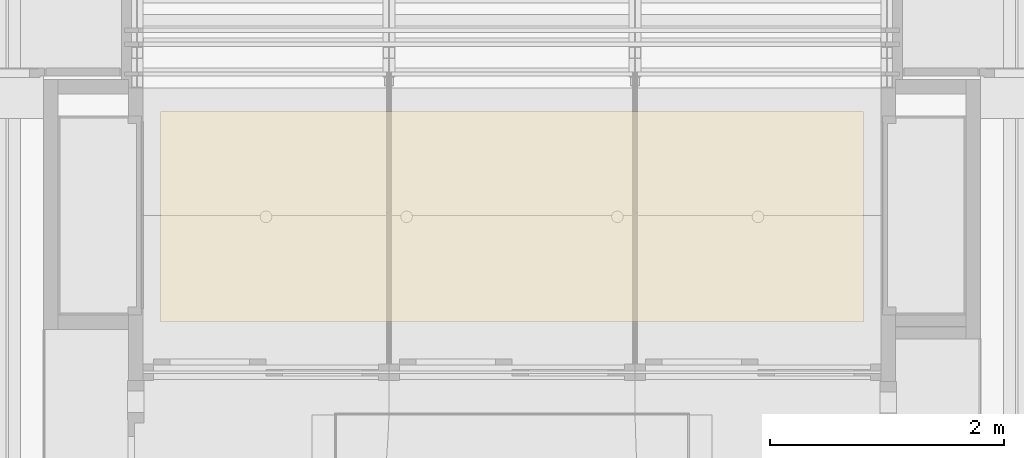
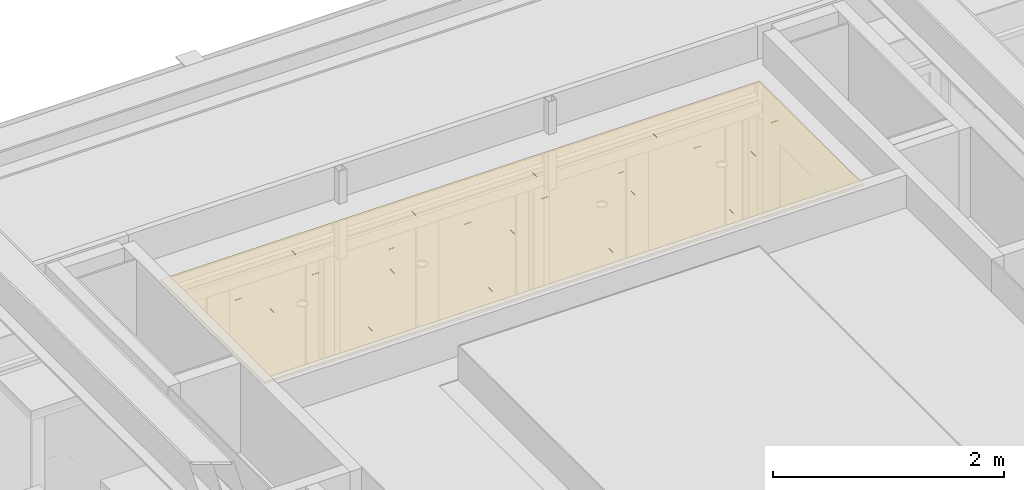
# One storey, part 176 of 347: 1 covering.
"""IFC2X3 building model written with IfcOpenShell, lengths in millimetres."""

import ifcopenshell
import ifcopenshell.guid

model = None  # the IFC model being written
_history = None  # IfcOwnerHistory: only IFC2X3 demands one
_inside = {}  # id of a spatial element -> (the spatial element, [elements in it])
_under = {}  # id of a project, library or spatial element -> (it, [spatial elements below it])
_declared = {}  # id of a project -> (the project, [libraries it declares])
_typed = {}  # id of a type object -> (the type object, [elements of that type])
_made_of = {}  # id of a material, layer set ... -> (it, [elements and type objects made of it])


def new_model(schema):
    """Start an empty IFC model of exactly this schema.

    Asked for "IFC4X3", IfcOpenShell would pick the latest addendum, in which some entities
    have other attributes; the version numbers below select the first issue.
    IFC2X3 requires an IfcOwnerHistory on every rooted entity: one is made here for all.
    """
    global model, _history
    if schema == "IFC4X3":
        model = ifcopenshell.file(schema_version=(4, 3, 0, 0))
    else:
        model = ifcopenshell.file(schema=schema)
    _inside.clear()
    _under.clear()
    _declared.clear()
    _typed.clear()
    _made_of.clear()
    _history = None
    if model.schema == "IFC2X3":
        org = make("IfcOrganization", Name="unknown")
        user = make(
            "IfcPersonAndOrganization",
            ThePerson=make("IfcPerson", FamilyName="unknown"),
            TheOrganization=org,
        )
        app = make(
            "IfcApplication",
            ApplicationDeveloper=org,
            Version="unknown",
            ApplicationFullName="unknown",
            ApplicationIdentifier="unknown",
        )
        _history = make(
            "IfcOwnerHistory",
            OwningUser=user,
            OwningApplication=app,
            ChangeAction="ADDED",
            CreationDate=0,
        )
    return model


def make(cls, **values):
    """One entity of the class cls with the attributes given. An attribute that is None is left unset."""
    return model.create_entity(
        cls, **{name: value for name, value in values.items() if value is not None}
    )


def entity(cls, *values):
    """Any entity or typed value of the class cls, its attributes in the order of the schema. None: left unset."""
    e = model.create_entity(cls)
    for i, value in enumerate(values):
        if value is not None:
            e[i] = value
    return e


def rooted(cls, **values):
    """An entity with a GlobalId (a new one), such as an element, a storey or a relation."""
    return make(cls, GlobalId=ifcopenshell.guid.new(), OwnerHistory=_history, **values)


def si_unit(unit_type, name, prefix=None):
    """IfcSIUnit, for example si_unit("LENGTHUNIT", "METRE", prefix="MILLI")."""
    return make("IfcSIUnit", UnitType=unit_type, Prefix=prefix, Name=name)


def converted_unit(unit_type, name, factor, base, dimensions=None, offset=None):
    """IfcConversionBasedUnit, such as the inch: factor (a typed value) times the base unit."""
    return make(
        "IfcConversionBasedUnit"
        if offset is None
        else "IfcConversionBasedUnitWithOffset",
        ConversionOffset=offset,
        Dimensions=None
        if dimensions is None
        else entity("IfcDimensionalExponents", *dimensions),
        UnitType=unit_type,
        Name=name,
        ConversionFactor=make(
            "IfcMeasureWithUnit", ValueComponent=factor, UnitComponent=base
        ),
    )


def derived_unit(unit_type, elements):
    """IfcDerivedUnit: a product of units, each with its exponent."""
    return make(
        "IfcDerivedUnit",
        Elements=[
            make("IfcDerivedUnitElement", Unit=unit, Exponent=power)
            for unit, power in elements
        ],
        UnitType=unit_type,
    )


def money_unit(currency):
    """IfcMonetaryUnit."""
    return make("IfcMonetaryUnit", Currency=currency)


def assignment(units):
    """IfcUnitAssignment: the units of a project."""
    return None if units is None else make("IfcUnitAssignment", Units=units)


def point(xyz):
    """IfcCartesianPoint."""
    return None if xyz is None else make("IfcCartesianPoint", Coordinates=xyz)


def direction(xyz):
    """IfcDirection."""
    return None if xyz is None else make("IfcDirection", DirectionRatios=xyz)


def frame(location, z_axis=None, x_axis=None):
    """IfcAxis2Placement3D, a coordinate frame: its origin and axes. An axis left out is left unset."""
    return make(
        "IfcAxis2Placement3D",
        Location=point(location),
        Axis=direction(z_axis),
        RefDirection=direction(x_axis),
    )


def origin_with_axes():
    """The frame at (0, 0, 0) with the z axis (0, 0, 1) and the x axis (1, 0, 0) written out."""
    return frame((0.0, 0.0, 0.0), z_axis=(0.0, 0.0, 1.0), x_axis=(1.0, 0.0, 0.0))


def place(relative_to, where):
    """IfcLocalPlacement: puts the frame where relative to a parent placement (None: the world)."""
    return make(
        "IfcLocalPlacement", PlacementRelTo=relative_to, RelativePlacement=where
    )


def context(
    kind, dimensions, precision=None, world=None, true_north=None, identifier=None
):
    """IfcGeometricRepresentationContext, for example the 3D "Model" context."""
    return make(
        "IfcGeometricRepresentationContext",
        ContextIdentifier=identifier,
        ContextType=kind,
        CoordinateSpaceDimension=dimensions,
        Precision=precision,
        WorldCoordinateSystem=world,
        TrueNorth=true_north,
    )


def subcontext(parent, identifier, kind, view, scale=None):
    """IfcGeometricRepresentationSubContext, for example "Body" below "Model"."""
    return make(
        "IfcGeometricRepresentationSubContext",
        ContextIdentifier=identifier,
        ContextType=kind,
        ParentContext=parent,
        TargetScale=scale,
        TargetView=view,
    )


def project(units=None, contexts=None):
    """IfcProject with its units and contexts."""
    return rooted(
        "IfcProject",
        Name="project",
        RepresentationContexts=contexts,
        UnitsInContext=assignment(units),
    )


def spatial(cls, under=None, at=None, **own):
    """A site, building, storey or space (cls), placed at a placement, below another one or the project."""
    s = rooted(cls, ObjectPlacement=at, **own)
    if under is not None:
        _under.setdefault(under.id(), (under, []))[1].append(s)
    return s


def faces_of(points, faces, orient=None, outer=None):
    """IfcFace entities. A face is a list of loops; a loop is a list of indices into points, from 0.

    orient and outer hold one flag for each loop. By default every Orientation is true, the
    first loop of a face is its IfcFaceOuterBound and the others are IfcFaceBound.
    """
    made = []
    for i, loops in enumerate(faces):
        bounds = []
        for j, loop in enumerate(loops):
            is_outer = j == 0 if outer is None else outer[i][j]
            bounds.append(
                make(
                    "IfcFaceOuterBound" if is_outer else "IfcFaceBound",
                    Bound=make("IfcPolyLoop", Polygon=[points[k] for k in loop]),
                    Orientation=True if orient is None else orient[i][j],
                )
            )
        made.append(make("IfcFace", Bounds=bounds))
    return made


def faceted_brep(points, faces, orient=None, outer=None, voids=None):
    """IfcFacetedBrep: a solid bounded by flat faces; with voids (closed shells), ...WithVoids."""
    shared = [point(p) for p in points]
    hull = make("IfcClosedShell", CfsFaces=faces_of(shared, faces, orient, outer))
    if voids is None:
        return make("IfcFacetedBrep", Outer=hull)
    return make(
        "IfcFacetedBrepWithVoids",
        Outer=hull,
        Voids=[
            make(cls, CfsFaces=faces_of(shared, fs, o, b)) for cls, fs, o, b in voids
        ],
    )


def shape(context_of_items, identifier, shape_type, items):
    """IfcShapeRepresentation: the items that make up one representation, for example the "Body"."""
    return make(
        "IfcShapeRepresentation",
        ContextOfItems=context_of_items,
        RepresentationIdentifier=identifier,
        RepresentationType=shape_type,
        Items=items,
    )


def made_of(thing, what):
    """Note that an element or type object is made of a material, layer set ...; save() writes the relation."""
    if what is not None:
        _made_of.setdefault(what.id(), (what, []))[1].append(thing)
    return thing


def type_object(cls, material=None, **own):
    """A type object (cls), such as IfcWallType, which elements share."""
    return made_of(rooted(cls, **own), material)


def element(
    cls,
    number,
    at=None,
    inside=None,
    cuts=None,
    type_object=None,
    material=None,
    context=None,
    identifier="Body",
    shape_type=None,
    held_by="IfcProductDefinitionShape",
    body=None,
    shapes=None,
    **own,
):
    """One element of the class cls, such as IfcWall. Its Tag is "e" and its number.

    at: its placement. inside: the storey or other place that contains it. cuts: it is an
    opening in that element (IfcRelVoidsElement). A single representation is given by context,
    identifier, shape_type and body (its items); several are given by shapes. held_by: the class
    of the entity that holds the representations. save() writes the other relations.
    """
    e = rooted(cls, Tag="e%d" % number, ObjectPlacement=at, **own)
    if body is not None:
        shapes = [shape(context, identifier, shape_type, body)]
    if shapes is not None:
        e.Representation = make(held_by, Representations=shapes)
    if inside is not None:
        _inside.setdefault(inside.id(), (inside, []))[1].append(e)
    if cuts is not None:
        rooted(
            "IfcRelVoidsElement", RelatingBuildingElement=cuts, RelatedOpeningElement=e
        )
    if type_object is not None:
        _typed.setdefault(type_object.id(), (type_object, []))[1].append(e)
    return made_of(e, material)


def aggregate(whole, parts):
    """IfcRelAggregates: a whole, such as a stair, and the parts it consists of."""
    return rooted("IfcRelAggregates", RelatingObject=whole, RelatedObjects=parts)


def save(model, path):
    """Write the relations noted so far, then the file.

    IfcRelAggregates (storeys below a building ...), IfcRelContainedInSpatialStructure (elements
    in a storey), IfcRelDefinesByType, IfcRelAssociatesMaterial and IfcRelDeclares: one each for
    every whole, place, type object, material and project.
    """
    for whole, parts in _under.values():
        aggregate(whole, parts)
    for where, things in _inside.values():
        rooted(
            "IfcRelContainedInSpatialStructure",
            RelatedElements=things,
            RelatingStructure=where,
        )
    for kind, things in _typed.values():
        rooted("IfcRelDefinesByType", RelatedObjects=things, RelatingType=kind)
    for what, things in _made_of.values():
        rooted("IfcRelAssociatesMaterial", RelatedObjects=things, RelatingMaterial=what)
    for by, libraries in _declared.values():
        rooted("IfcRelDeclares", RelatingContext=by, RelatedDefinitions=libraries)
    model.write(path)


model = new_model("IFC2X3")

# Units and contexts
model_context = context("Model", 3, precision=0.01, world=origin_with_axes(), true_north=direction((0.0, 1.0)))
plan_context = context("Plan", 3, precision=0.01, world=origin_with_axes(), true_north=direction((0.0, 1.0)))
body_context = subcontext(model_context, "Body", "Model", "MODEL_VIEW")
ifc_project = project(units=[si_unit("LENGTHUNIT", "METRE", prefix="MILLI"), si_unit("AREAUNIT", "SQUARE_METRE"), si_unit("VOLUMEUNIT", "CUBIC_METRE"), converted_unit("PLANEANGLEUNIT", "DEGREE", entity("IfcPlaneAngleMeasure", 0.0174532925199), si_unit("PLANEANGLEUNIT", "RADIAN"), dimensions=[0, 0, 0, 0, 0, 0, 0]), money_unit("EUR"), converted_unit("TIMEUNIT", "Year", entity("IfcTimeMeasure", 31556926.0), si_unit("TIMEUNIT", "SECOND"), dimensions=[0, 0, 1, 0, 0, 0, 0]), si_unit("MASSUNIT", "GRAM", prefix="KILO"), si_unit("THERMODYNAMICTEMPERATUREUNIT", "DEGREE_CELSIUS"), si_unit("LUMINOUSINTENSITYUNIT", "LUMEN"), si_unit("ENERGYUNIT", "JOULE", prefix="MEGA"), derived_unit("THERMALCONDUCTANCEUNIT", [(si_unit("POWERUNIT", "WATT"), 1), (si_unit("LENGTHUNIT", "METRE"), -1), (si_unit("THERMODYNAMICTEMPERATUREUNIT", "KELVIN"), -1)]), derived_unit("SPECIFICHEATCAPACITYUNIT", [(si_unit("ENERGYUNIT", "JOULE"), 1), (si_unit("MASSUNIT", "GRAM", prefix="KILO"), -1), (si_unit("THERMODYNAMICTEMPERATUREUNIT", "KELVIN"), -1)]), derived_unit("MASSDENSITYUNIT", [(si_unit("MASSUNIT", "GRAM", prefix="KILO"), 1), (si_unit("VOLUMEUNIT", "CUBIC_METRE"), -1)])], contexts=[model_context, plan_context])

# Site, building, storey
site_placement = place(None, origin_with_axes())
site = spatial("IfcSite", under=ifc_project, at=site_placement, Name="Site", CompositionType="ELEMENT")
building_placement = place(site_placement, origin_with_axes())
building = spatial("IfcBuilding", under=site, at=building_placement, Name="Naam gebouw", CompositionType="ELEMENT")
storey_placement = place(building_placement, origin_with_axes())
storey = spatial("IfcBuildingStorey", under=building, at=storey_placement, Name="begane grond", CompositionType="ELEMENT", Elevation=0.0)

# Covering
covering_type = type_object("IfcCoveringType", Name="Ceiling Editor INT_v2.01", PredefinedType="CEILING")
covering_placement = place(storey_placement, frame((37075.0, 43053.0, 3200.0), z_axis=(0.0, 0.0, 1.0), x_axis=(1.0, 0.0, 0.0)))
element("IfcCovering", 1, at=covering_placement, inside=storey, type_object=covering_type, Name="45 Plafondafwerkingen_77 garderobe", PredefinedType="CEILING", context=body_context, shape_type="Brep", body=[
    faceted_brep([(599.9, 0.1, 20.0), (599.9, 0.1, 0.0), (599.9, 1199.9, 0.0), (599.9, 1199.9, 20.0), (0.0999999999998, 0.1, 20.0), (0.0999999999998, 0.1, 0.0), (0.0999999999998, 1199.9, 0.0), (0.0999999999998, 1199.9, 20.0)], [[[0, 1, 2, 3]], [[4, 5, 1, 0]], [[2, 1, 5, 6]], [[3, 2, 6, 7]], [[4, 0, 3, 7]], [[7, 6, 5, 4]]]),
    faceted_brep([(599.9, 1800.0, 0.0), (599.9, 1800.0, 20.0), (599.9, 1200.1, 20.0), (599.9, 1200.1, 0.0), (0.0999999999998, 1800.0, 0.0), (0.0999999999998, 1800.0, 20.0), (0.0999999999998, 1200.1, 20.0), (0.0999999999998, 1200.1, 0.0)], [[[0, 1, 2, 3]], [[1, 0, 4, 5]], [[1, 5, 6, 2]], [[6, 7, 3, 2]], [[4, 0, 3, 7]], [[5, 4, 7, 6]]]),
    faceted_brep([(1199.9, 0.1, 20.0), (1199.9, 0.1, 0.0), (1199.9, 1199.9, 0.0), (1199.9, 1199.9, 20.0), (600.1, 0.1, 20.0), (600.1, 0.1, 0.0), (600.1, 1199.9, 0.0), (600.1, 1199.9, 20.0)], [[[0, 1, 2, 3]], [[4, 5, 1, 0]], [[2, 1, 5, 6]], [[3, 2, 6, 7]], [[4, 0, 3, 7]], [[7, 6, 5, 4]]]),
    faceted_brep([(1199.9, 1800.0, 0.0), (1199.9, 1800.0, 20.0), (1199.9, 1200.1, 20.0), (1199.9, 1200.1, 0.0), (600.1, 1800.0, 0.0), (600.1, 1800.0, 20.0), (600.1, 1200.1, 20.0), (600.1, 1200.1, 0.0)], [[[0, 1, 2, 3]], [[1, 0, 4, 5]], [[1, 5, 6, 2]], [[6, 7, 3, 2]], [[4, 0, 3, 7]], [[5, 4, 7, 6]]]),
    faceted_brep([(1799.9, 0.1, 20.0), (1799.9, 0.1, 0.0), (1799.9, 1199.9, 0.0), (1799.9, 1199.9, 20.0), (1200.1, 0.1, 20.0), (1200.1, 0.1, 0.0), (1200.1, 1199.9, 0.0), (1200.1, 1199.9, 20.0)], [[[0, 1, 2, 3]], [[4, 5, 1, 0]], [[2, 1, 5, 6]], [[3, 2, 6, 7]], [[4, 0, 3, 7]], [[7, 6, 5, 4]]]),
    faceted_brep([(1799.9, 1800.0, 0.0), (1799.9, 1800.0, 20.0), (1799.9, 1200.1, 20.0), (1799.9, 1200.1, 0.0), (1500.0, 1800.0, 0.0), (1500.0, 1800.0, 20.0), (1200.1, 1800.0, 20.0), (1200.1, 1200.1, 20.0), (1200.1, 1200.1, 0.0), (1200.1, 1800.0, 0.0)], [[[0, 1, 2, 3]], [[1, 0, 4, 5]], [[5, 6, 7, 2, 1]], [[7, 8, 3, 2]], [[4, 0, 3, 8, 9]], [[6, 5, 4, 9]], [[6, 9, 8, 7]]]),
    faceted_brep([(2399.9, 0.1, 20.0), (2399.9, 0.1, 0.0), (2399.9, 1199.9, 0.0), (2399.9, 1199.9, 20.0), (1800.1, 0.1, 20.0), (1800.1, 0.1, 0.0), (1800.1, 1199.9, 0.0), (1800.1, 1199.9, 20.0)], [[[0, 1, 2, 3]], [[4, 5, 1, 0]], [[2, 1, 5, 6]], [[3, 2, 6, 7]], [[4, 0, 3, 7]], [[7, 6, 5, 4]]]),
    faceted_brep([(2399.9, 1800.0, 0.0), (2399.9, 1800.0, 20.0), (2399.9, 1200.1, 20.0), (2399.9, 1200.1, 0.0), (1800.1, 1800.0, 0.0), (1800.1, 1800.0, 20.0), (1800.1, 1200.1, 20.0), (1800.1, 1200.1, 0.0)], [[[0, 1, 2, 3]], [[1, 0, 4, 5]], [[1, 5, 6, 2]], [[6, 7, 3, 2]], [[4, 0, 3, 7]], [[5, 4, 7, 6]]]),
    faceted_brep([(2999.9, 0.1, 20.0), (2999.9, 0.1, 0.0), (2999.9, 1199.9, 0.0), (2999.9, 1199.9, 20.0), (2400.1, 0.1, 20.0), (2400.1, 0.1, 0.0), (2400.1, 1199.9, 0.0), (2400.1, 1199.9, 20.0)], [[[0, 1, 2, 3]], [[4, 5, 1, 0]], [[2, 1, 5, 6]], [[3, 2, 6, 7]], [[4, 0, 3, 7]], [[7, 6, 5, 4]]]),
    faceted_brep([(2999.9, 1800.0, 0.0), (2999.9, 1800.0, 20.0), (2999.9, 1200.1, 20.0), (2999.9, 1200.1, 0.0), (2400.1, 1800.0, 0.0), (2400.1, 1800.0, 20.0), (2400.1, 1200.1, 20.0), (2400.1, 1200.1, 0.0)], [[[0, 1, 2, 3]], [[1, 0, 4, 5]], [[1, 5, 6, 2]], [[6, 7, 3, 2]], [[4, 0, 3, 7]], [[5, 4, 7, 6]]]),
    faceted_brep([(3599.9, 0.1, 20.0), (3599.9, 0.1, 0.0), (3599.9, 1199.9, 0.0), (3599.9, 1199.9, 20.0), (3000.1, 0.1, 20.0), (3000.1, 0.1, 0.0), (3000.1, 1199.9, 0.0), (3000.1, 1199.9, 20.0)], [[[0, 1, 2, 3]], [[4, 5, 1, 0]], [[2, 1, 5, 6]], [[3, 2, 6, 7]], [[4, 0, 3, 7]], [[7, 6, 5, 4]]]),
    faceted_brep([(3599.9, 1800.0, 0.0), (3599.9, 1800.0, 20.0), (3599.9, 1200.1, 20.0), (3599.9, 1200.1, 0.0), (3000.1, 1800.0, 0.0), (3000.1, 1800.0, 20.0), (3000.1, 1200.1, 20.0), (3000.1, 1200.1, 0.0)], [[[0, 1, 2, 3]], [[1, 0, 4, 5]], [[1, 5, 6, 2]], [[6, 7, 3, 2]], [[4, 0, 3, 7]], [[5, 4, 7, 6]]]),
    faceted_brep([(4199.9, 0.1, 20.0), (4199.9, 0.1, 0.0), (4199.9, 1199.9, 0.0), (4199.9, 1199.9, 20.0), (3600.1, 0.1, 20.0), (3600.1, 0.1, 0.0), (3600.1, 1199.9, 0.0), (3600.1, 1199.9, 20.0)], [[[0, 1, 2, 3]], [[4, 5, 1, 0]], [[2, 1, 5, 6]], [[3, 2, 6, 7]], [[4, 0, 3, 7]], [[7, 6, 5, 4]]]),
    faceted_brep([(4199.9, 1800.0, 0.0), (4199.9, 1800.0, 20.0), (4199.9, 1200.1, 20.0), (4199.9, 1200.1, 0.0), (3600.1, 1800.0, 0.0), (3600.1, 1800.0, 20.0), (3600.1, 1200.1, 20.0), (3600.1, 1200.1, 0.0)], [[[0, 1, 2, 3]], [[1, 0, 4, 5]], [[1, 5, 6, 2]], [[6, 7, 3, 2]], [[4, 0, 3, 7]], [[5, 4, 7, 6]]]),
    faceted_brep([(4799.9, 0.1, 20.0), (4799.9, 0.1, 0.0), (4799.9, 1199.9, 0.0), (4799.9, 1199.9, 20.0), (4200.1, 0.1, 20.0), (4200.1, 0.1, 0.0), (4200.1, 1199.9, 0.0), (4200.1, 1199.9, 20.0)], [[[0, 1, 2, 3]], [[4, 5, 1, 0]], [[2, 1, 5, 6]], [[3, 2, 6, 7]], [[4, 0, 3, 7]], [[7, 6, 5, 4]]]),
    faceted_brep([(4799.9, 1800.0, 0.0), (4799.9, 1800.0, 20.0), (4799.9, 1200.1, 20.0), (4799.9, 1200.1, 0.0), (4500.0, 1800.0, 0.0), (4500.0, 1800.0, 20.0), (4200.1, 1800.0, 20.0), (4200.1, 1200.1, 20.0), (4200.1, 1200.1, 0.0), (4200.1, 1800.0, 0.0)], [[[0, 1, 2, 3]], [[1, 0, 4, 5]], [[5, 6, 7, 2, 1]], [[7, 8, 3, 2]], [[4, 0, 3, 8, 9]], [[6, 5, 4, 9]], [[6, 9, 8, 7]]]),
    faceted_brep([(5399.9, 0.1, 20.0), (5399.9, 0.1, 0.0), (5399.9, 1199.9, 0.0), (5399.9, 1199.9, 20.0), (4800.1, 0.1, 20.0), (4800.1, 0.1, 0.0), (4800.1, 1199.9, 0.0), (4800.1, 1199.9, 20.0)], [[[0, 1, 2, 3]], [[4, 5, 1, 0]], [[2, 1, 5, 6]], [[3, 2, 6, 7]], [[4, 0, 3, 7]], [[7, 6, 5, 4]]]),
    faceted_brep([(5399.9, 1800.0, 0.0), (5399.9, 1800.0, 20.0), (5399.9, 1200.1, 20.0), (5399.9, 1200.1, 0.0), (4800.1, 1800.0, 0.0), (4800.1, 1800.0, 20.0), (4800.1, 1200.1, 20.0), (4800.1, 1200.1, 0.0)], [[[0, 1, 2, 3]], [[1, 0, 4, 5]], [[1, 5, 6, 2]], [[6, 7, 3, 2]], [[4, 0, 3, 7]], [[5, 4, 7, 6]]]),
    faceted_brep([(5999.9, 0.1, 20.0), (5999.9, 0.1, 0.0), (5999.9, 1199.9, 0.0), (5999.9, 1199.9, 20.0), (5400.1, 0.1, 20.0), (5400.1, 0.1, 0.0), (5400.1, 1199.9, 0.0), (5400.1, 1199.9, 20.0)], [[[0, 1, 2, 3]], [[4, 5, 1, 0]], [[2, 1, 5, 6]], [[3, 2, 6, 7]], [[4, 0, 3, 7]], [[7, 6, 5, 4]]]),
    faceted_brep([(5999.9, 1800.0, 0.0), (5999.9, 1800.0, 20.0), (5999.9, 1200.1, 20.0), (5999.9, 1200.1, 0.0), (5400.1, 1800.0, 0.0), (5400.1, 1800.0, 20.0), (5400.1, 1200.1, 20.0), (5400.1, 1200.1, 0.0)], [[[0, 1, 2, 3]], [[1, 0, 4, 5]], [[1, 5, 6, 2]], [[6, 7, 3, 2]], [[4, 0, 3, 7]], [[5, 4, 7, 6]]]),
    faceted_brep([(1787.5, 25.0, -5.0), (1787.5, 25.0, 0.0), (1787.5, 1187.5, 0.0), (1787.5, 1187.5, -5.0), (1212.5, 25.0, -5.0), (1212.5, 25.0, 0.0), (5987.5, 1800.0, 0.0), (5412.5, 1800.0, 0.0), (5387.5, 1800.0, 0.0), (4812.5, 1800.0, 0.0), (4787.5, 1800.0, 0.0), (4212.5, 1800.0, 0.0), (4187.5, 1800.0, 0.0), (3612.5, 1800.0, 0.0), (3587.5, 1800.0, 0.0), (3012.5, 1800.0, 0.0), (3000.0, 1800.0, 0.0), (2987.5, 1800.0, 0.0), (2412.5, 1800.0, 0.0), (2387.5, 1800.0, 0.0), (1812.5, 1800.0, 0.0), (1787.5, 1800.0, 0.0), (1212.5, 1800.0, 0.0), (1187.5, 1800.0, 0.0), (612.5, 1800.0, 0.0), (587.5, 1800.0, 0.0), (12.5, 1800.0, 0.0), (0.0, 1800.0, 0.0), (0.0, 1350.0, 0.0), (0.0, 900.0, 0.0), (0.0, 450.0, 0.0), (0.0, 0.0, 0.0), (1500.0, 0.0, 0.0), (3000.0, 0.0, 0.0), (4500.0, 0.0, 0.0), (6000.0, 0.0, 0.0), (6000.0, 450.0, 0.0), (6000.0, 900.0, 0.0), (6000.0, 1350.0, 0.0), (6000.0, 1800.0, 0.0), (25.0, 1187.5, 0.0), (587.5, 1187.5, 0.0), (587.5, 25.0, 0.0), (25.0, 25.0, 0.0), (1187.5, 25.0, 0.0), (612.5, 25.0, 0.0), (612.5, 1187.5, 0.0), (1187.5, 1187.5, 0.0), (1212.5, 1187.5, 0.0), (2387.5, 25.0, 0.0), (1812.5, 25.0, 0.0), (1812.5, 1187.5, 0.0), (2387.5, 1187.5, 0.0), (2987.5, 25.0, 0.0), (2412.5, 25.0, 0.0), (2412.5, 1187.5, 0.0), (2987.5, 1187.5, 0.0), (3587.5, 25.0, 0.0), (3012.5, 25.0, 0.0), (3012.5, 1187.5, 0.0), (3587.5, 1187.5, 0.0), (4187.5, 25.0, 0.0), (3612.5, 25.0, 0.0), (3612.5, 1187.5, 0.0), (4187.5, 1187.5, 0.0), (4212.5, 25.0, 0.0), (4212.5, 1187.5, 0.0), (4787.5, 1187.5, 0.0), (4787.5, 25.0, 0.0), (5387.5, 25.0, 0.0), (4812.5, 25.0, 0.0), (4812.5, 1187.5, 0.0), (5387.5, 1187.5, 0.0), (5975.0, 25.0, 0.0), (5412.5, 25.0, 0.0), (5412.5, 1187.5, 0.0), (5975.0, 1187.5, 0.0), (587.5, 1775.0, 0.0), (587.5, 1212.5, 0.0), (25.0, 1212.5, 0.0), (25.0, 1775.0, 0.0), (1187.5, 1775.0, 0.0), (1187.5, 1212.5, 0.0), (612.5, 1212.5, 0.0), (612.5, 1775.0, 0.0), (1787.5, 1775.0, 0.0), (1787.5, 1212.5, 0.0), (1212.5, 1212.5, 0.0), (1212.5, 1775.0, 0.0), (2387.5, 1775.0, 0.0), (2387.5, 1212.5, 0.0), (1812.5, 1212.5, 0.0), (1812.5, 1775.0, 0.0), (2987.5, 1775.0, 0.0), (2987.5, 1212.5, 0.0), (2412.5, 1212.5, 0.0), (2412.5, 1775.0, 0.0), (3587.5, 1775.0, 0.0), (3587.5, 1212.5, 0.0), (3012.5, 1212.5, 0.0), (3012.5, 1775.0, 0.0), (4187.5, 1775.0, 0.0), (4187.5, 1212.5, 0.0), (3612.5, 1212.5, 0.0), (3612.5, 1775.0, 0.0), (4787.5, 1775.0, 0.0), (4787.5, 1212.5, 0.0), (4212.5, 1212.5, 0.0), (4212.5, 1775.0, 0.0), (5387.5, 1775.0, 0.0), (5387.5, 1212.5, 0.0), (4812.5, 1212.5, 0.0), (4812.5, 1775.0, 0.0), (5975.0, 1212.5, 0.0), (5412.5, 1212.5, 0.0), (5412.5, 1775.0, 0.0), (5975.0, 1775.0, 0.0), (1212.5, 1187.5, -5.0), (5987.5, 1800.0, -5.0), (6000.0, 1800.0, -5.0), (6000.0, 1350.0, -5.0), (6000.0, 900.0, -5.0), (6000.0, 450.0, -5.0), (6000.0, 0.0, -5.0), (4500.0, 0.0, -5.0), (3000.0, 0.0, -5.0), (1500.0, 0.0, -5.0), (0.0, 0.0, -5.0), (0.0, 450.0, -5.0), (0.0, 900.0, -5.0), (0.0, 1350.0, -5.0), (0.0, 1800.0, -5.0), (12.5, 1800.0, -5.0), (587.5, 1800.0, -5.0), (612.5, 1800.0, -5.0), (1187.5, 1800.0, -5.0), (1212.5, 1800.0, -5.0), (1787.5, 1800.0, -5.0), (1812.5, 1800.0, -5.0), (2387.5, 1800.0, -5.0), (2412.5, 1800.0, -5.0), (2987.5, 1800.0, -5.0), (3000.0, 1800.0, -5.0), (3012.5, 1800.0, -5.0), (3587.5, 1800.0, -5.0), (3612.5, 1800.0, -5.0), (4187.5, 1800.0, -5.0), (4212.5, 1800.0, -5.0), (4787.5, 1800.0, -5.0), (4812.5, 1800.0, -5.0), (5387.5, 1800.0, -5.0), (5412.5, 1800.0, -5.0), (25.0, 25.0, -5.0), (587.5, 25.0, -5.0), (587.5, 1187.5, -5.0), (25.0, 1187.5, -5.0), (1187.5, 25.0, -5.0), (1187.5, 1187.5, -5.0), (612.5, 1187.5, -5.0), (612.5, 25.0, -5.0), (2387.5, 25.0, -5.0), (2387.5, 1187.5, -5.0), (1812.5, 1187.5, -5.0), (1812.5, 25.0, -5.0), (2987.5, 25.0, -5.0), (2987.5, 1187.5, -5.0), (2412.5, 1187.5, -5.0), (2412.5, 25.0, -5.0), (3587.5, 25.0, -5.0), (3587.5, 1187.5, -5.0), (3012.5, 1187.5, -5.0), (3012.5, 25.0, -5.0), (4187.5, 25.0, -5.0), (4187.5, 1187.5, -5.0), (3612.5, 1187.5, -5.0), (3612.5, 25.0, -5.0), (4787.5, 25.0, -5.0), (4787.5, 1187.5, -5.0), (4212.5, 1187.5, -5.0), (4212.5, 25.0, -5.0), (5387.5, 25.0, -5.0), (5387.5, 1187.5, -5.0), (4812.5, 1187.5, -5.0), (4812.5, 25.0, -5.0), (5975.0, 25.0, -5.0), (5975.0, 1187.5, -5.0), (5412.5, 1187.5, -5.0), (5412.5, 25.0, -5.0), (587.5, 1775.0, -5.0), (25.0, 1775.0, -5.0), (25.0, 1212.5, -5.0), (587.5, 1212.5, -5.0), (1187.5, 1775.0, -5.0), (612.5, 1775.0, -5.0), (612.5, 1212.5, -5.0), (1187.5, 1212.5, -5.0), (1787.5, 1775.0, -5.0), (1212.5, 1775.0, -5.0), (1212.5, 1212.5, -5.0), (1787.5, 1212.5, -5.0), (2387.5, 1775.0, -5.0), (1812.5, 1775.0, -5.0), (1812.5, 1212.5, -5.0), (2387.5, 1212.5, -5.0), (2987.5, 1775.0, -5.0), (2412.5, 1775.0, -5.0), (2412.5, 1212.5, -5.0), (2987.5, 1212.5, -5.0), (3587.5, 1775.0, -5.0), (3012.5, 1775.0, -5.0), (3012.5, 1212.5, -5.0), (3587.5, 1212.5, -5.0), (4187.5, 1775.0, -5.0), (3612.5, 1775.0, -5.0), (3612.5, 1212.5, -5.0), (4187.5, 1212.5, -5.0), (4787.5, 1775.0, -5.0), (4212.5, 1775.0, -5.0), (4212.5, 1212.5, -5.0), (4787.5, 1212.5, -5.0), (5387.5, 1775.0, -5.0), (4812.5, 1775.0, -5.0), (4812.5, 1212.5, -5.0), (5387.5, 1212.5, -5.0), (5975.0, 1775.0, -5.0), (5412.5, 1775.0, -5.0), (5412.5, 1212.5, -5.0), (5975.0, 1212.5, -5.0)], [[[0, 1, 2, 3]], [[1, 0, 4, 5]], [[6, 7, 8, 9, 10, 11, 12, 13, 14, 15, 16, 17, 18, 19, 20, 21, 22, 23, 24, 25, 26, 27, 28, 29, 30, 31, 32, 33, 34, 35, 36, 37, 38, 39], [40, 41, 42, 43], [44, 45, 46, 47], [1, 5, 48, 2], [49, 50, 51, 52], [53, 54, 55, 56], [57, 58, 59, 60], [61, 62, 63, 64], [65, 66, 67, 68], [69, 70, 71, 72], [73, 74, 75, 76], [77, 78, 79, 80], [81, 82, 83, 84], [85, 86, 87, 88], [89, 90, 91, 92], [93, 94, 95, 96], [97, 98, 99, 100], [101, 102, 103, 104], [105, 106, 107, 108], [109, 110, 111, 112], [113, 114, 115, 116]], [[117, 3, 2, 48]], [[118, 119, 120, 121, 122, 123, 124, 125, 126, 127, 128, 129, 130, 131, 132, 133, 134, 135, 136, 137, 138, 139, 140, 141, 142, 143, 144, 145, 146, 147, 148, 149, 150, 151], [152, 153, 154, 155], [156, 157, 158, 159], [0, 3, 117, 4], [160, 161, 162, 163], [164, 165, 166, 167], [168, 169, 170, 171], [172, 173, 174, 175], [176, 177, 178, 179], [180, 181, 182, 183], [184, 185, 186, 187], [188, 189, 190, 191], [192, 193, 194, 195], [196, 197, 198, 199], [200, 201, 202, 203], [204, 205, 206, 207], [208, 209, 210, 211], [212, 213, 214, 215], [216, 217, 218, 219], [220, 221, 222, 223], [224, 225, 226, 227]], [[5, 4, 117, 48]], [[6, 39, 119, 118, 151, 150, 149, 148, 147, 146, 145, 144, 143, 142, 16, 15, 14, 13, 12, 11, 10, 9, 8, 7]], [[17, 16, 142, 141, 140, 139, 138, 137, 136, 135, 134, 133, 132, 131, 27, 26, 25, 24, 23, 22, 21, 20, 19, 18]], [[131, 130, 28, 27]], [[130, 129, 29, 28]], [[129, 128, 30, 29]], [[128, 127, 31, 30]], [[126, 32, 31, 127]], [[32, 126, 125, 33]], [[124, 34, 33, 125]], [[34, 124, 123, 35]], [[123, 122, 36, 35]], [[122, 121, 37, 36]], [[121, 120, 38, 37]], [[120, 119, 39, 38]], [[40, 155, 154, 41]], [[153, 42, 41, 154]], [[152, 43, 42, 153]], [[155, 40, 43, 152]], [[44, 156, 159, 45]], [[45, 159, 158, 46]], [[158, 157, 47, 46]], [[156, 44, 47, 157]], [[49, 160, 163, 50]], [[50, 163, 162, 51]], [[162, 161, 52, 51]], [[160, 49, 52, 161]], [[53, 164, 167, 54]], [[54, 167, 166, 55]], [[166, 165, 56, 55]], [[164, 53, 56, 165]], [[57, 168, 171, 58]], [[58, 171, 170, 59]], [[170, 169, 60, 59]], [[168, 57, 60, 169]], [[61, 172, 175, 62]], [[62, 175, 174, 63]], [[174, 173, 64, 63]], [[172, 61, 64, 173]], [[65, 179, 178, 66]], [[178, 177, 67, 66]], [[176, 68, 67, 177]], [[65, 68, 176, 179]], [[69, 180, 183, 70]], [[70, 183, 182, 71]], [[182, 181, 72, 71]], [[180, 69, 72, 181]], [[73, 184, 187, 74]], [[74, 187, 186, 75]], [[185, 76, 75, 186]], [[184, 73, 76, 185]], [[77, 188, 191, 78]], [[190, 79, 78, 191]], [[189, 80, 79, 190]], [[188, 77, 80, 189]], [[81, 192, 195, 82]], [[83, 82, 195, 194]], [[193, 84, 83, 194]], [[192, 81, 84, 193]], [[85, 196, 199, 86]], [[87, 86, 199, 198]], [[197, 88, 87, 198]], [[196, 85, 88, 197]], [[89, 200, 203, 90]], [[91, 90, 203, 202]], [[201, 92, 91, 202]], [[200, 89, 92, 201]], [[93, 204, 207, 94]], [[95, 94, 207, 206]], [[205, 96, 95, 206]], [[204, 93, 96, 205]], [[97, 208, 211, 98]], [[99, 98, 211, 210]], [[209, 100, 99, 210]], [[208, 97, 100, 209]], [[101, 212, 215, 102]], [[103, 102, 215, 214]], [[213, 104, 103, 214]], [[212, 101, 104, 213]], [[105, 216, 219, 106]], [[107, 106, 219, 218]], [[217, 108, 107, 218]], [[216, 105, 108, 217]], [[109, 220, 223, 110]], [[111, 110, 223, 222]], [[221, 112, 111, 222]], [[220, 109, 112, 221]], [[113, 227, 226, 114]], [[225, 115, 114, 226]], [[224, 116, 115, 225]], [[113, 116, 224, 227]]]),
])

save(model, "model.ifc")
